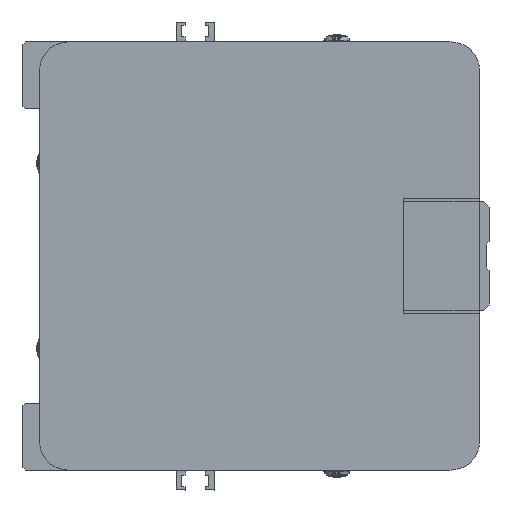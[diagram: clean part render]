
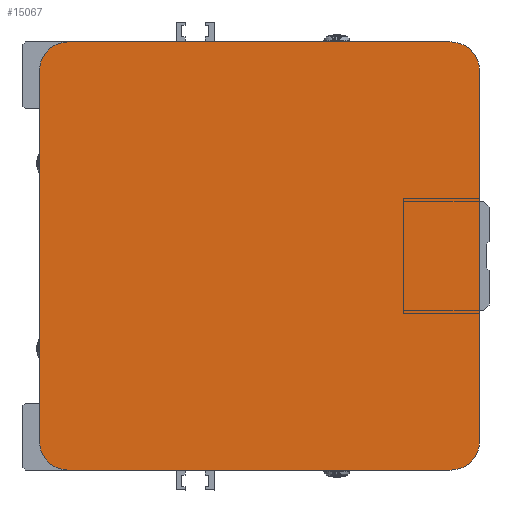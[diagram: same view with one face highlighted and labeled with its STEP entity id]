
A CAD part, left-side view. The second image highlights one B-rep face of the part: STEP entity #15067.
In plain terms, the highlighted planar face has unit normal (-1, 0, 0) as drawn and (0, 0, -1) by its records, which use the part's own axes.
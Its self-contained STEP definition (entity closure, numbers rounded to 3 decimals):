
#1195=CIRCLE('',#16067,6.);
#1197=CIRCLE('',#16072,6.);
#1198=CIRCLE('',#16078,6.);
#1199=CIRCLE('',#16080,6.);
#2102=FACE_OUTER_BOUND('',#2998,.T.);
#2998=EDGE_LOOP('',(#10540,#10541,#10542,#10543,#10544,#10545,#10546,#10547));
#4137=LINE('',#21606,#5382);
#4155=LINE('',#21645,#5400);
#4159=LINE('',#21657,#5404);
#4161=LINE('',#21664,#5406);
#5382=VECTOR('',#17663,78.);
#5400=VECTOR('',#17697,80.5);
#5404=VECTOR('',#17711,80.5);
#5406=VECTOR('',#17719,78.);
#6624=VERTEX_POINT('',#21600);
#6625=VERTEX_POINT('',#21604);
#6637=VERTEX_POINT('',#21642);
#6638=VERTEX_POINT('',#21644);
#6640=VERTEX_POINT('',#21653);
#6641=VERTEX_POINT('',#21655);
#6642=VERTEX_POINT('',#21659);
#6643=VERTEX_POINT('',#21663);
#8164=EDGE_CURVE('',#6625,#6624,#4137,.T.);
#8184=EDGE_CURVE('',#6637,#6638,#4155,.T.);
#8186=EDGE_CURVE('',#6638,#6625,#1195,.T.);
#8190=EDGE_CURVE('',#6641,#6640,#4159,.T.);
#8191=EDGE_CURVE('',#6640,#6642,#1197,.T.);
#8193=EDGE_CURVE('',#6642,#6643,#4161,.T.);
#8209=EDGE_CURVE('',#6643,#6637,#1198,.T.);
#8210=EDGE_CURVE('',#6624,#6641,#1199,.T.);
#10540=ORIENTED_EDGE('',*,*,#8191,.F.);
#10541=ORIENTED_EDGE('',*,*,#8190,.F.);
#10542=ORIENTED_EDGE('',*,*,#8210,.F.);
#10543=ORIENTED_EDGE('',*,*,#8164,.F.);
#10544=ORIENTED_EDGE('',*,*,#8186,.F.);
#10545=ORIENTED_EDGE('',*,*,#8184,.F.);
#10546=ORIENTED_EDGE('',*,*,#8209,.F.);
#10547=ORIENTED_EDGE('',*,*,#8193,.F.);
#14540=PLANE('',#16091);
#15067=ADVANCED_FACE('',(#2102),#14540,.T.);
#16067=AXIS2_PLACEMENT_3D('',#21648,#17701,#17702);
#16072=AXIS2_PLACEMENT_3D('',#21660,#17714,#17715);
#16078=AXIS2_PLACEMENT_3D('',#21692,#17743,#17744);
#16080=AXIS2_PLACEMENT_3D('',#21694,#17747,#17748);
#16091=AXIS2_PLACEMENT_3D('',#21713,#17774,#17775);
#17663=DIRECTION('',(1.,0.,0.));
#17697=DIRECTION('',(0.,-1.,0.));
#17701=DIRECTION('center_axis',(0.,0.,
1.));
#17702=DIRECTION('ref_axis',(-1.,0.,0.));
#17711=DIRECTION('',(0.,1.,0.));
#17714=DIRECTION('center_axis',(0.,0.,
1.));
#17715=DIRECTION('ref_axis',(1.,0.,0.));
#17719=DIRECTION('',(-1.,0.,0.));
#17743=DIRECTION('center_axis',(0.,0.,
1.));
#17744=DIRECTION('ref_axis',(0.,1.,0.));
#17747=DIRECTION('center_axis',(0.,0.,
1.));
#17748=DIRECTION('ref_axis',(0.,-1.,0.));
#17774=DIRECTION('center_axis',(0.,0.,
-1.));
#17775=DIRECTION('ref_axis',(0.545,-0.839,0.));
#21600=CARTESIAN_POINT('',(88.204,2.,-686.));
#21604=CARTESIAN_POINT('',(10.204,2.,-686.));
#21606=CARTESIAN_POINT('',(10.204,2.,-686.));
#21642=CARTESIAN_POINT('',(4.204,88.5,-686.));
#21644=CARTESIAN_POINT('',(4.204,8.,-686.));
#21645=CARTESIAN_POINT('',(4.204,88.5,-686.));
#21648=CARTESIAN_POINT('Origin',(10.204,8.,-686.));
#21653=CARTESIAN_POINT('',(94.204,88.5,-686.));
#21655=CARTESIAN_POINT('',(94.204,8.,-686.));
#21657=CARTESIAN_POINT('',(94.204,8.,-686.));
#21659=CARTESIAN_POINT('',(88.204,94.5,-686.));
#21660=CARTESIAN_POINT('Origin',(88.204,88.5,-686.));
#21663=CARTESIAN_POINT('',(10.204,94.5,-686.));
#21664=CARTESIAN_POINT('',(88.204,94.5,-686.));
#21692=CARTESIAN_POINT('Origin',(10.204,88.5,-686.));
#21694=CARTESIAN_POINT('Origin',(88.204,8.,-686.));
#21713=CARTESIAN_POINT('Origin',(49.204,26.,-686.));
